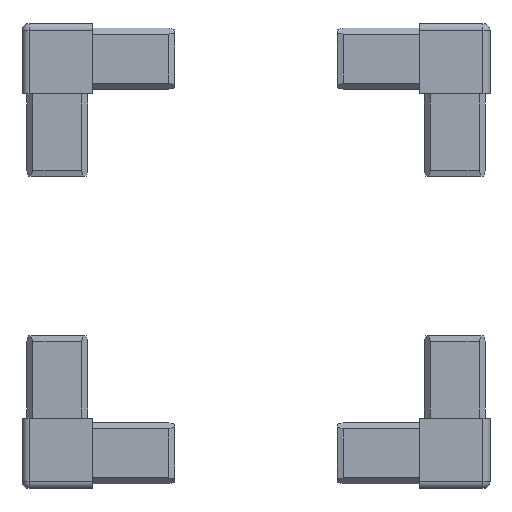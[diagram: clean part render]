
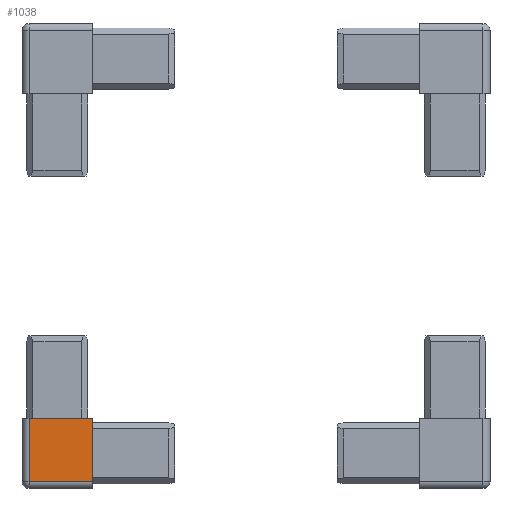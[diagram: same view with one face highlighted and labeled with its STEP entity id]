
A CAD part, left-side view. The second image highlights one B-rep face of the part: STEP entity #1038.
In plain terms, the highlighted planar face has unit normal (-1, 0, 0).
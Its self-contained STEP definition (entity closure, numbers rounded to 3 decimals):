
#93 = ORIENTED_EDGE ( 'NONE', *, *, #654, .T. ) ;
#95 = CARTESIAN_POINT ( 'NONE',  ( -15., 12., -12. ) ) ;
#124 = CARTESIAN_POINT ( 'NONE',  ( -15., -15., 15. ) ) ;
#199 = DIRECTION ( 'NONE',  ( 0., -1., 0. ) ) ;
#248 = AXIS2_PLACEMENT_3D ( 'NONE', #1179, #285, #280 ) ;
#277 = ORIENTED_EDGE ( 'NONE', *, *, #1043, .T. ) ;
#280 = DIRECTION ( 'NONE',  ( 0., 1., 0. ) ) ;
#285 = DIRECTION ( 'NONE',  ( 1., 0., 0. ) ) ;
#289 = EDGE_LOOP ( 'NONE', ( #1317, #277, #1346, #93 ) ) ;
#381 = DIRECTION ( 'NONE',  ( 0., 1., 0. ) ) ;
#384 = LINE ( 'NONE', #1310, #1140 ) ;
#458 = LINE ( 'NONE', #889, #1006 ) ;
#495 = CARTESIAN_POINT ( 'NONE',  ( -15., -50., 15. ) ) ;
#555 = DIRECTION ( 'NONE',  ( 0., 0., -1. ) ) ;
#605 = VERTEX_POINT ( 'NONE', #1053 ) ;
#654 = EDGE_CURVE ( 'NONE', #1239, #950, #1416, .T. ) ;
#782 = LINE ( 'NONE', #1227, #841 ) ;
#841 = VECTOR ( 'NONE', #555, 1000. ) ;
#866 = EDGE_CURVE ( 'NONE', #950, #1048, #458, .T. ) ;
#889 = CARTESIAN_POINT ( 'NONE',  ( -15., 12., 50. ) ) ;
#929 = CARTESIAN_POINT ( 'NONE',  ( -15., 12., 15. ) ) ;
#950 = VERTEX_POINT ( 'NONE', #929 ) ;
#1004 = VECTOR ( 'NONE', #381, 1000. ) ;
#1006 = VECTOR ( 'NONE', #1337, 1000. ) ;
#1038 = ADVANCED_FACE ( 'NONE', ( #1430 ), #1409, .F. ) ;
#1043 = EDGE_CURVE ( 'NONE', #1048, #605, #384, .T. ) ;
#1048 = VERTEX_POINT ( 'NONE', #95 ) ;
#1053 = CARTESIAN_POINT ( 'NONE',  ( -15., -15., -12. ) ) ;
#1140 = VECTOR ( 'NONE', #199, 1000. ) ;
#1179 = CARTESIAN_POINT ( 'NONE',  ( -15., 15., 50. ) ) ;
#1227 = CARTESIAN_POINT ( 'NONE',  ( -15., -15., 15. ) ) ;
#1239 = VERTEX_POINT ( 'NONE', #124 ) ;
#1243 = EDGE_CURVE ( 'NONE', #1239, #605, #782, .T. ) ;
#1310 = CARTESIAN_POINT ( 'NONE',  ( -15., 15., -12. ) ) ;
#1317 = ORIENTED_EDGE ( 'NONE', *, *, #866, .T. ) ;
#1337 = DIRECTION ( 'NONE',  ( 0., 0., -1. ) ) ;
#1346 = ORIENTED_EDGE ( 'NONE', *, *, #1243, .F. ) ;
#1409 = PLANE ( 'NONE',  #248 ) ;
#1416 = LINE ( 'NONE', #495, #1004 ) ;
#1430 = FACE_OUTER_BOUND ( 'NONE', #289, .T. ) ;
